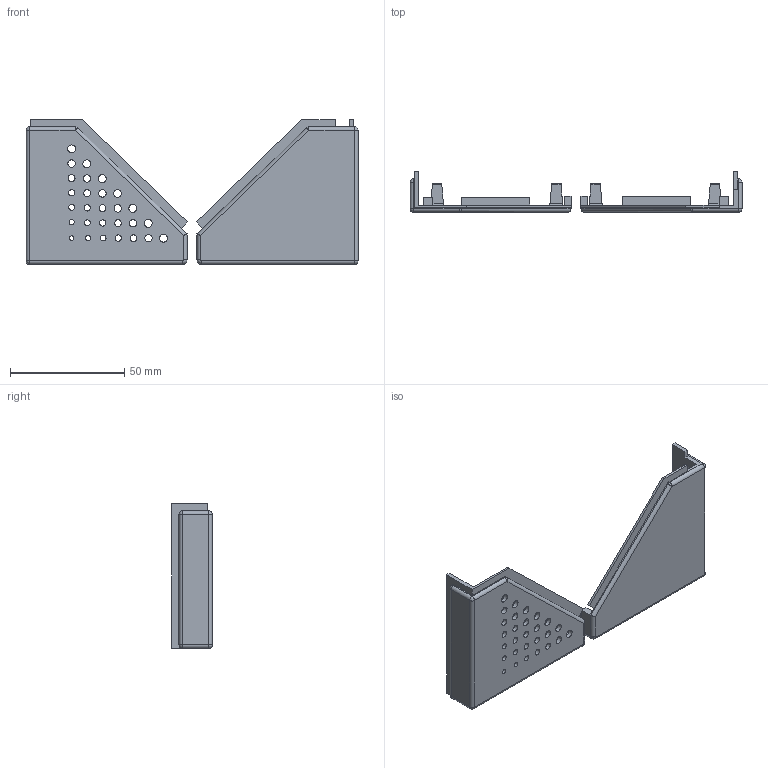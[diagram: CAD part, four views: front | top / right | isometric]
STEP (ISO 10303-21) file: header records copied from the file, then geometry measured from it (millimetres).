
FILE_DESCRIPTION(/* description */ ('STEP AP242 Edition 2','CAx-IF Rec.Pracs.---Representation and Presentation of Product Manufacturing Information (PMI)---4.0---2014-10-13','CAx-IF Rec.Pracs.---3D Tessellated Geometry---0.4---2014-09-14','2;1','CAx-IF Rec.Pracs.---User Defined Attributes---1.5---2016-08-15'),/* implementation_level */ '2;1');
FILE_NAME(/* name */ 'Part Studio 1',/* time_stamp */ '2026-06-04T21:26:14Z',/* author */ (''),/* organization */ (''),/* preprocessor_version */ 'ST-DEVELOPER v20',/* originating_system */ 'ONSHAPE BY PTC INC, 1.215',/* authorisation */ ' ');
FILE_SCHEMA (('AP242_MANAGED_MODEL_BASED_3D_ENGINEERING_MIM_LF { 1 0 10303 442 3 1 4 }'));
Length unit declared in the file: metre
Products named in the file (2): Part 2; Part 1
Bounding box: 145.6 x 17.78 x 63.5 mm (x, y, z)
Volume: 20678.3 mm3; surface area: 21244.7 mm2
Topology: 2 solids, 2 shells, 177 faces, 493 edges, 316 vertices
Faces by surface type: plane 85, cylinder 80, sphere 10, torus 2
Full cylindrical faces by diameter (mm): 2 x1, 2.25 x2, 2.5 x3, 2.75 x4, 3 x5, 3.25 x6, 3.5 x7
Entity records: 5372 total; most frequent: DIRECTION 929, CARTESIAN_POINT 906, ORIENTED_EDGE 854, EDGE_CURVE 427, AXIS2_PLACEMENT_3D 327, VERTEX_POINT 288, LINE 275, VECTOR 275
